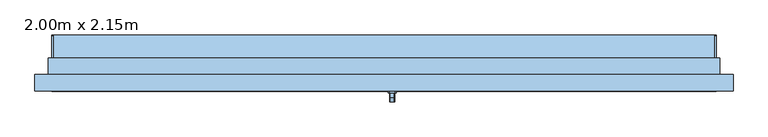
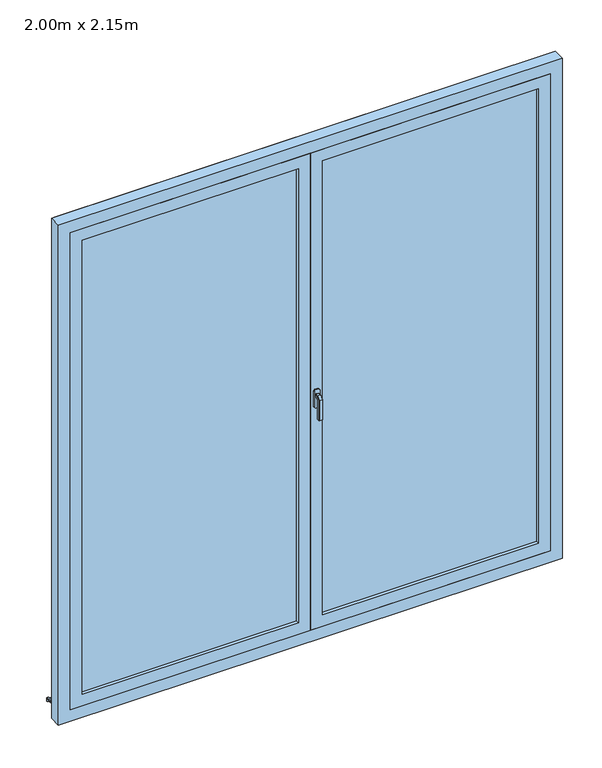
"""IFC4 building model written with IfcOpenShell, lengths in millimetres: window geometry, PF 2 Vantaux - Droits : 2.00m x 2.15m."""

from ifc_helpers import new_model, si_unit, point, frame, frame_2d, origin, place, context, project, spatial, polyline, circle_curve, trimmed, segment, composite_curve, outline, extrude, faceted_brep, source, transform, mapped, element, save


def window_2_00m_x_2_15m_5decbdad(model_context):
    return source(origin(), model_context, "Body", "SolidModel", [
        faceted_brep([(30.6460097, -86.0, 1122.0339292), (32.0339292, -86.0, 1120.6460097), (32.0339292, -86.0, 1109.3323012), (30.6676988, -86.0, 1107.9660708), (19.3323012, -86.0, 1107.9660708), (17.9660708, -86.0, 1109.3323012), (17.9660708, -86.0, 1120.6460097), (19.3539903, -86.0, 1122.0339292), (30.6460097, -98.9135489, 1122.0339292), (32.0339292, -98.3386538, 1120.6460097), (32.0339292, -111.6460097, 1107.3386538), (32.0339292, -111.6460097, 1020.0), (32.0339292, -100.3323012, 1020.0), (32.0339292, -100.3323012, 1102.6523623), (32.0339292, -93.6523623, 1109.3323012), (30.6676988, -93.0864511, 1107.9660708), (19.3323012, -93.0864511, 1107.9660708), (17.9660708, -93.6523623, 1109.3323012), (17.9660708, -100.3323012, 1102.6523623), (17.9660708, -100.3323012, 1020.0), (17.9660708, -111.6460097, 1020.0), (17.9660708, -111.6460097, 1107.3386538), (17.9660708, -98.3386538, 1120.6460097), (19.3539903, -98.9135489, 1122.0339292), (30.6460097, -113.0339292, 1107.9135489), (30.6676988, -98.9660708, 1102.0864511), (19.3323012, -98.9660708, 1102.0864511), (19.3539903, -113.0339292, 1107.9135489), (30.6460097, -113.0339292, 1020.0), (19.3539903, -113.0339292, 1020.0), (19.3323012, -98.9660708, 1020.0), (30.6676988, -98.9660708, 1020.0)], [[[0, 1, 2, 3, 4, 5, 6, 7]], [[1, 0, 8, 9]], [[2, 1, 9, 10, 11, 12, 13, 14]], [[3, 2, 14, 15]], [[4, 3, 15, 16]], [[5, 4, 16, 17]], [[6, 5, 17, 18, 19, 20, 21, 22]], [[7, 6, 22, 23]], [[0, 7, 23, 8]], [[9, 8, 24, 10]], [[15, 14, 13, 25]], [[16, 15, 25, 26]], [[17, 16, 26, 18]], [[23, 22, 21, 27]], [[8, 23, 27, 24]], [[28, 29, 20, 19, 30, 31, 12, 11]], [[10, 24, 28, 11]], [[25, 13, 12, 31]], [[26, 25, 31, 30]], [[18, 26, 30, 19]], [[27, 21, 20, 29]], [[24, 27, 29, 28]]]),
        extrude(outline(polyline([(1140.0, 32.0), (1140.0, 18.0), (1135.0, 13.0), (1065.0, 13.0), (1060.0, 18.0), (1060.0, 32.0), (1065.0, 37.0), (1135.0, 37.0), (1140.0, 32.0)])), frame((0.0, -86.0, 0.0), z_axis=(0.0, 1.0, 0.0), x_axis=(0.0, 0.0, 1.0)), (0.0, 0.0, 1.0), 6.0),
        extrude(outline(polyline([(90.0288776, 30.7927954), (90.0288776, 19.7145929), (85.0288776, 20.2401141), (85.0288776, 26.0631048), (0.0, 35.0), (0.0, 50.0), (5.0, 50.0), (5.0, 39.7296906), (90.0288776, 30.7927954)])), frame((-1000.0, 0.0, 0.0), z_axis=(1.0, 0.0, 0.0), x_axis=(0.0, 1.0, 0.0)), (0.0, 0.0, 1.0), 2000.0),
        extrude(outline(composite_curve([segment(polyline([(90.0288776, 30.7927954), (5.0, 39.7296906), (5.0, 44.757232), (86.4469915, 36.1968082)]), True, "CONTINUOUS"), segment(trimmed(circle_curve(frame_2d((86.0288776, 32.2187207)), 4.0), [point((86.4469915, 36.1968082))], [point((90.0288776, 32.2187207))], False, "CARTESIAN"), True, "CONTINUOUS"), segment(polyline([(90.0288776, 32.2187207), (90.0288776, 30.7927954)]), True, "CONTINUOUS")], self_intersect=False)), frame((-1000.0, 0.0, 0.0), z_axis=(1.0, 0.0, 0.0), x_axis=(0.0, 1.0, 0.0)), (0.0, 0.0, 1.0), 5.0),
        extrude(outline(composite_curve([segment(polyline([(90.0288776, 30.7927954), (5.0, 39.7296906), (5.0, 44.757232), (86.4469915, 36.1968082)]), True, "CONTINUOUS"), segment(trimmed(circle_curve(frame_2d((86.0288776, 32.2187207)), 4.0), [point((86.4469915, 36.1968082))], [point((90.0288776, 32.2187207))], False, "CARTESIAN"), True, "CONTINUOUS"), segment(polyline([(90.0288776, 32.2187207), (90.0288776, 30.7927954)]), True, "CONTINUOUS")], self_intersect=False)), frame((995.0, 0.0, 0.0), z_axis=(1.0, 0.0, 0.0), x_axis=(0.0, 1.0, 0.0)), (0.0, 0.0, 1.0), 5.0),
        extrude(outline(polyline([(85.0, 0.0), (2185.0, 0.0), (2185.0, -1000.0), (85.0, -1000.0), (85.0, 0.0)]), holes=[polyline([(135.0, -950.0), (2135.0, -950.0), (2135.0, -50.0), (135.0, -50.0), (135.0, -950.0)])]), frame((0.0, -80.0, 0.0), z_axis=(0.0, 1.0, 0.0), x_axis=(0.0, 0.0, 1.0)), (0.0, 0.0, 1.0), 40.0),
        extrude(outline(polyline([(50.0, -54.0), (950.0, -54.0), (950.0, -66.0), (50.0, -66.0), (50.0, -54.0)])), frame((0.0, 0.0, 135.0), z_axis=(0.0, 0.0, 1.0), x_axis=(1.0, 0.0, 0.0)), (0.0, 0.0, 1.0), 2000.0),
        extrude(outline(polyline([(-950.0, -54.0), (-50.0, -54.0), (-50.0, -66.0), (-950.0, -66.0), (-950.0, -54.0)])), frame((0.0, 0.0, 135.0), z_axis=(0.0, 0.0, 1.0), x_axis=(1.0, 0.0, 0.0)), (0.0, 0.0, 1.0), 2000.0),
        extrude(outline(polyline([(85.0, 1000.0), (2185.0, 1000.0), (2185.0, 0.0), (85.0, 0.0), (85.0, 1000.0)]), holes=[polyline([(135.0, 50.0), (2135.0, 50.0), (2135.0, 950.0), (135.0, 950.0), (135.0, 50.0)])]), frame((0.0, -80.0, 0.0), z_axis=(0.0, 1.0, 0.0), x_axis=(0.0, 0.0, 1.0)), (0.0, 0.0, 1.0), 40.0),
        faceted_brep([(-1050.0, -80.0, 35.0), (-1050.0, -30.0, 35.0), (-1000.0, -30.0, 35.0), (-1000.0, 0.0, 35.0), (1000.0, 0.0, 35.0), (1000.0, -30.0, 35.0), (1050.0, -30.0, 35.0), (1050.0, -80.0, 35.0), (-1050.0, -80.0, 2235.0), (-1050.0, -30.0, 2235.0), (1050.0, -30.0, 2235.0), (1000.0, -30.0, 74.3761425), (-1000.0, -30.0, 74.3761425), (-985.0, -30.0, 2170.0), (-985.0, -30.0, 100.0), (985.0, -30.0, 100.0), (985.0, -30.0, 2170.0), (-1000.0, 20.0, 60.9786829), (-1000.0, 20.0, 45.0), (-1000.0, 10.0, 45.0), (-1000.0, 10.0, 50.0), (-1000.0, 0.0, 50.0), (1000.0, 0.0, 50.0), (1000.0, 10.0, 50.0), (1000.0, 10.0, 45.0), (1000.0, 20.0, 45.0), (1000.0, 20.0, 60.9786829), (1050.0, -80.0, 2235.0), (1000.0, -80.0, 2185.0), (1000.0, -80.0, 85.0), (-1000.0, -80.0, 85.0), (-1000.0, -80.0, 2185.0), (-985.0, -40.0, 2170.0), (-985.0, -40.0, 100.0), (985.0, -40.0, 100.0), (985.0, -40.0, 2170.0), (1000.0, -40.0, 2185.0), (-1000.0, -40.0, 2185.0), (-1000.0, -40.0, 85.0), (1000.0, -40.0, 85.0)], [[[0, 1, 2, 3, 4, 5, 6, 7]], [[1, 0, 8, 9]], [[1, 9, 10, 6, 5, 11, 12, 2], [13, 14, 15, 16]], [[12, 17, 18, 19, 20, 21, 3, 2]], [[3, 21, 22, 4]], [[4, 22, 23, 24, 25, 26, 11, 5]], [[6, 10, 27, 7]], [[0, 7, 27, 8], [28, 29, 30, 31]], [[13, 32, 33, 14]], [[33, 34, 15, 14]], [[35, 16, 15, 34]], [[17, 12, 11, 26]], [[36, 37, 38, 39], [32, 35, 34, 33]], [[38, 37, 31, 30]], [[30, 29, 39, 38]], [[28, 36, 39, 29]], [[18, 17, 26, 25]], [[19, 18, 25, 24]], [[20, 19, 24, 23]], [[21, 20, 23, 22]], [[13, 16, 35, 32]], [[37, 36, 28, 31]], [[10, 9, 8, 27]]]),
        extrude(outline(polyline([(35.0, -1010.0), (35.0, -1000.0), (2185.0, -1000.0), (2185.0, 1000.0), (35.0, 1000.0), (35.0, 1010.0), (2195.0, 1010.0), (2195.0, -1010.0), (35.0, -1010.0)])), frame((0.0, -30.0, 0.0), z_axis=(0.0, 1.0, 0.0), x_axis=(0.0, 0.0, 1.0)), (0.0, 0.0, 1.0), 50.0),
        extrude(outline(polyline([(20.0, -32.0), (20.0, -40.0), (-20.0, -40.0), (-20.0, -32.0), (20.0, -32.0)])), frame((0.0, 0.0, 100.0), z_axis=(0.0, 0.0, 1.0), x_axis=(1.0, 0.0, 0.0)), (0.0, 0.0, 1.0), 2070.0),
    ])


if __name__ == "__main__":
    model = new_model("IFC4")
    model_context = context("Model", 3, world=origin())
    ifc_project = project(units=[si_unit("LENGTHUNIT", "METRE", prefix="MILLI")], contexts=[model_context])
    site = spatial("IfcSite", under=ifc_project)
    building = spatial("IfcBuilding", under=site)
    placement = place(None, origin())
    window_2_00m_x_2_15m_shape = window_2_00m_x_2_15m_5decbdad(model_context)
    element("IfcWindow", 1, ObjectType="PF 2 Vantaux - Droits : 2.00m x 2.15m", at=placement, inside=building, context=model_context, shape_type="MappedRepresentation", body=[
        mapped(window_2_00m_x_2_15m_shape, transform((0.0, 0.0, 0.0), x_axis=(1.0, 0.0, 0.0), y_axis=(0.0, 1.0, 0.0), z_axis=(0.0, 0.0, 1.0))),
    ])
    save(model, "model.ifc")
